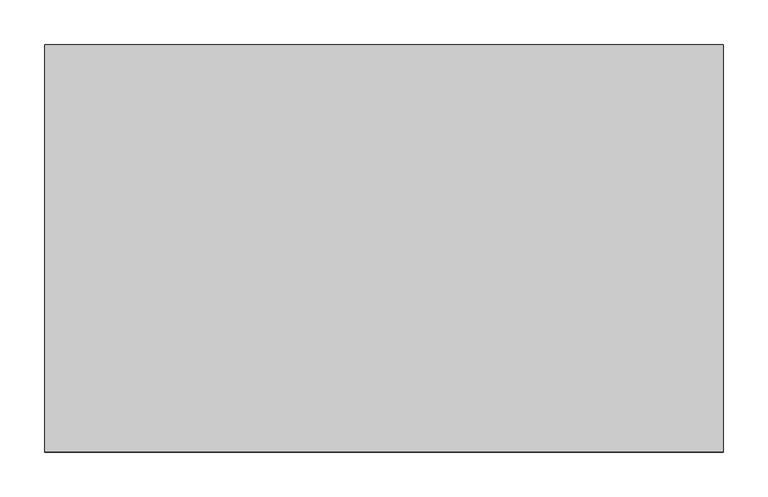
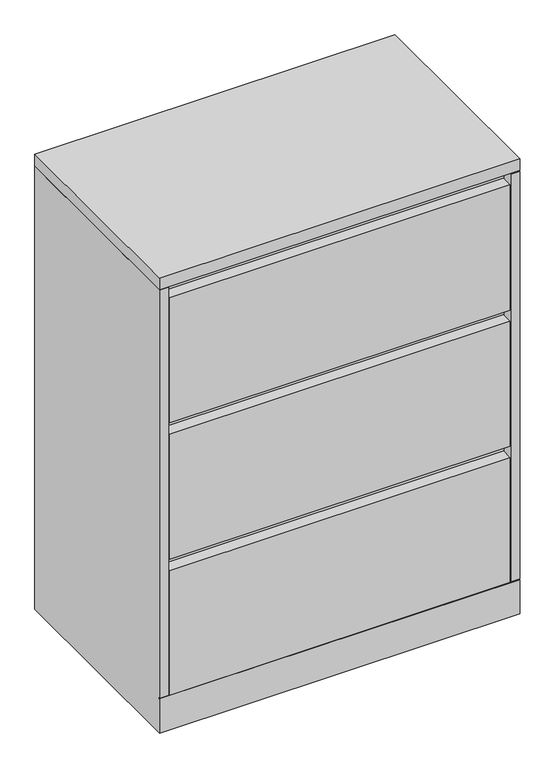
"""IFC4 building model written with IfcOpenShell, lengths in millimetres: furniture geometry, Steelcase - Universal Storage - Lateral File - 3 and 4 High - Flush Steel : 3 Drawers - 18D x 30W."""

from ifc_helpers import new_model, si_unit, frame, origin, place, context, project, spatial, polyline, outline, extrude, faceted_brep, source, transform, mapped, element, save


def furniture_6b25aa68(model_context):
    return source(origin(), model_context, "Body", "SolidModel", [
        extrude(outline(polyline([(762.0, 457.2), (762.0, 0.0), (0.0, 0.0), (0.0, 457.2), (762.0, 457.2)])), frame((0.0, 0.0, 990.6), z_axis=(0.0, 0.0, 1.0), x_axis=(1.0, 0.0, 0.0)), (0.0, 0.0, 1.0), 25.4),
        faceted_brep([(762.0, 0.0, 0.0), (762.0, 457.2, 0.0), (762.0, 457.2, 989.0759651), (762.0, 0.0, 989.0759651), (762.0, 0.0, 77.7239985), (762.0, 1.524, 77.7239985), (762.0, 1.524, 76.2), (762.0, 0.0, 76.2), (0.0, 0.0, 0.0), (0.0, 0.0, 76.2), (0.0, 1.524, 76.2), (0.0, 1.524, 77.7239985), (0.0, 0.0, 77.7239985), (0.0, 0.0, 989.0759651), (0.0, 457.2, 989.0759651), (0.0, 457.2, 0.0), (19.304, 0.0, 989.0759651), (19.304, 25.4000121, 989.0759651), (742.696, 25.4000121, 989.0759651), (742.696, 0.0, 989.0759651), (19.304, 25.4000121, 101.600003), (742.696, 25.4000121, 101.600003), (19.304, 1.524, 101.600003), (742.696, 1.524, 101.600003), (742.696, 1.524, 77.7239985), (19.304, 1.524, 77.7239985), (19.304, 0.0, 77.7239985), (742.696, 0.0, 77.7239985)], [[[0, 1, 2, 3, 4, 5, 6, 7]], [[8, 9, 10, 11, 12, 13, 14, 15]], [[1, 0, 8, 15]], [[2, 1, 15, 14]], [[3, 2, 14, 13, 16, 17, 18, 19]], [[17, 20, 21, 18]], [[20, 22, 23, 21]], [[10, 6, 5, 24, 23, 22, 25, 11]], [[7, 6, 10, 9]], [[0, 7, 9, 8]], [[17, 16, 26, 25, 22, 20]], [[26, 16, 13, 12]], [[25, 26, 12, 11]], [[24, 27, 19, 18, 21, 23]], [[27, 24, 5, 4]], [[19, 27, 4, 3]]]),
        extrude(outline(polyline([(736.6000242, 431.7999992), (736.6000242, 25.4000121), (25.4000008, 25.4000121), (25.4000008, 431.7999992), (736.6000242, 431.7999992)])), frame((0.0, 0.0, 989.0759651), z_axis=(0.0, 0.0, 1.0), x_axis=(1.0, 0.0, 0.0)), (0.0, 0.0, 1.0), 1.5240349),
        extrude(outline(polyline([(741.1719835, 0.0), (20.8280006, 0.0), (20.8280006, 25.4000121), (741.1719835, 25.4000121), (741.1719835, 0.0)])), frame((0.0, 0.0, 685.8), z_axis=(0.0, 0.0, 1.0), x_axis=(1.0, 0.0, 0.0)), (0.0, 0.0, 1.0), 279.4),
        extrude(outline(polyline([(741.1719835, 0.0), (20.8280006, 0.0), (20.8280006, 25.4000121), (741.1719835, 25.4000121), (741.1719835, 0.0)])), frame((0.0, 0.0, 381.0), z_axis=(0.0, 0.0, 1.0), x_axis=(1.0, 0.0, 0.0)), (0.0, 0.0, 1.0), 279.4),
        extrude(outline(polyline([(741.1719835, 0.0), (20.8280006, 0.0), (20.8280006, 25.4000121), (741.1719835, 25.4000121), (741.1719835, 0.0)])), frame((0.0, 0.0, 77.7239985), z_axis=(0.0, 0.0, 1.0), x_axis=(1.0, 0.0, 0.0)), (0.0, 0.0, 1.0), 277.8759893),
    ])


if __name__ == "__main__":
    model = new_model("IFC4")
    model_context = context("Model", 3, world=origin())
    ifc_project = project(units=[si_unit("LENGTHUNIT", "METRE", prefix="MILLI")], contexts=[model_context])
    site = spatial("IfcSite", under=ifc_project)
    building = spatial("IfcBuilding", under=site)
    placement = place(None, origin())
    furniture_shape = furniture_6b25aa68(model_context)
    element("IfcFurniture", 1, ObjectType="Steelcase - Universal Storage - Lateral File - 3 and 4 High - Flush Steel : 3 Drawers - 18D x 30W", at=placement, inside=building, context=model_context, shape_type="MappedRepresentation", body=[
        mapped(furniture_shape, transform((0.0, 0.0, 0.0), x_axis=(1.0, 0.0, 0.0), y_axis=(0.0, 1.0, 0.0), z_axis=(0.0, 0.0, 1.0))),
    ])
    save(model, "model.ifc")
